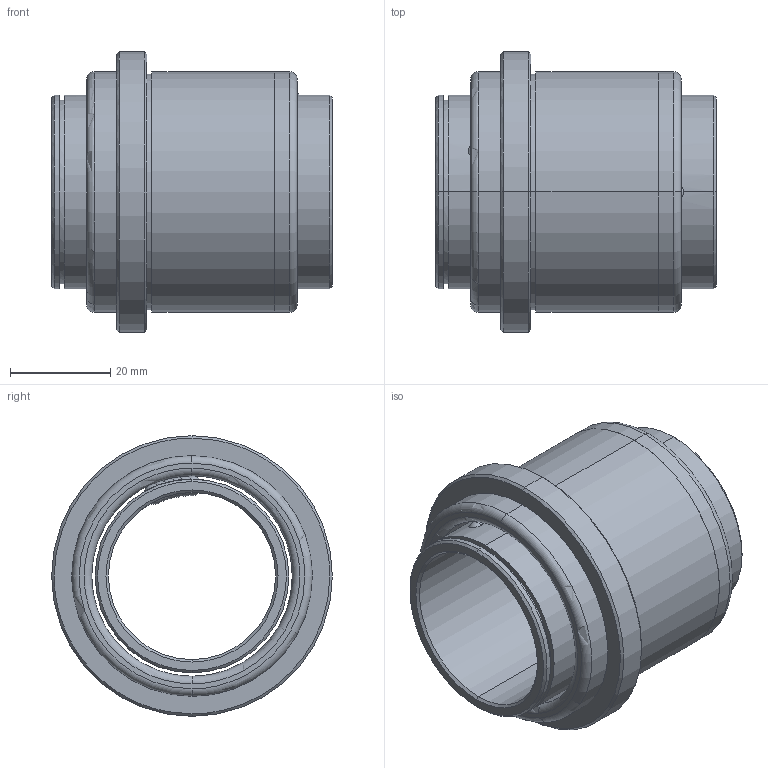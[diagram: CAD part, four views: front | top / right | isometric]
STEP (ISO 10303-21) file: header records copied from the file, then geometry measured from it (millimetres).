
FILE_DESCRIPTION(('CATIA V5 STEP Exchange'),'2;1');
FILE_NAME('C:\Users\Utente\Desktop\IO LAVORO\3D X SITO CF\X SITO\732\732-32.stp','2021-01-10T19:25:00+00:00',('none'),('none'),'CATIA Version 5 Release 20 GA (IN-10)','CATIA V5 STEP AP203','none');
FILE_SCHEMA(('CONFIG_CONTROL_DESIGN'));
Length unit declared in the file: millimetre
Products named in the file (1): 732-32
Assembly tree (2 placements, depth 2):
  732-32
    #58
    #1297
Bounding box: 56 x 56 x 56 mm (x, y, z)
Volume: 43485.2 mm3; surface area: 27245.3 mm2
Topology: 2 solids, 2 shells, 74 faces, 216 edges, 162 vertices
Faces by surface type: sphere 24, cylinder 20, cone 12, plane 10, torus 8
Entity records: 3053 total; most frequent: CARTESIAN_POINT 1068, ORIENTED_EDGE 432, DIRECTION 310, EDGE_CURVE 216, AXIS2_PLACEMENT_3D 198, VERTEX_POINT 162, CIRCLE 120, EDGE_LOOP 94
